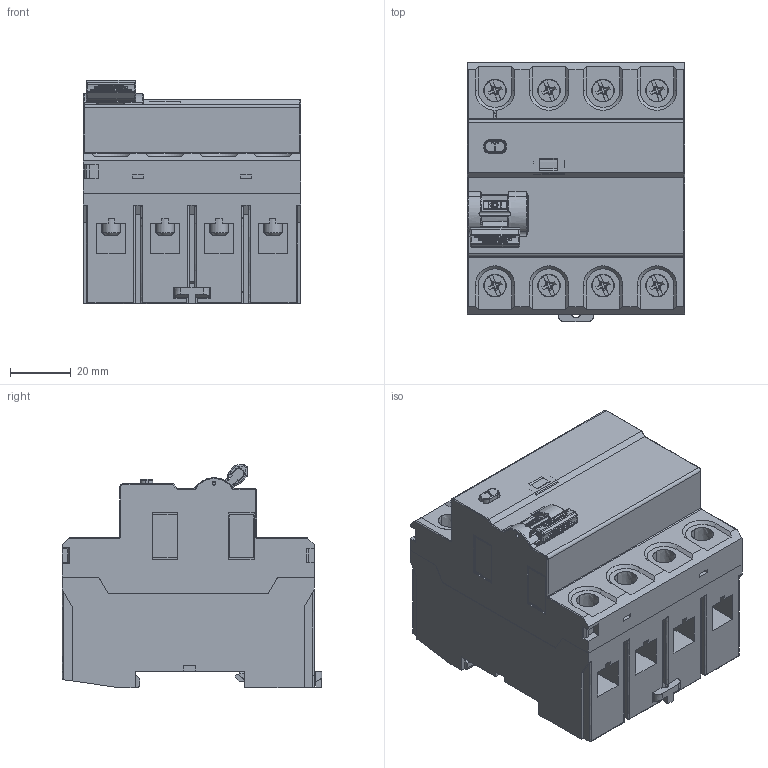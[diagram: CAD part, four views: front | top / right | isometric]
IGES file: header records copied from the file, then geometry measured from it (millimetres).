
Start section: SolidWorks IGES file using analytic representation for surfaces
Global section: file name: \\Brjgs100\dfsweg\GROUPS\BR_SC_JGS_WA_TECNICO\ENG\Usuarios\Rodrigob\conversão\Linha Predial\Produto\Interruptores diferenciais-residuais RDW\RDW\RDW-RDWS-RDWH_4\RDW-RDWS-RDWH_4.IGS; native system: SolidWorks 2018; preprocessor: SolidWorks 2018; author: rodrigob; date: 190624.104544; units: millimetre
Bounding box: 71.6 x 85.5 x 73.7 mm (x, y, z)
Surface area: 60516.6 mm2 (no closed solid volume)
Topology: 0 solids, 0 shells, 1238 faces, 11379 edges, 11357 vertices
Faces by surface type: bspline 930, revolution 308
